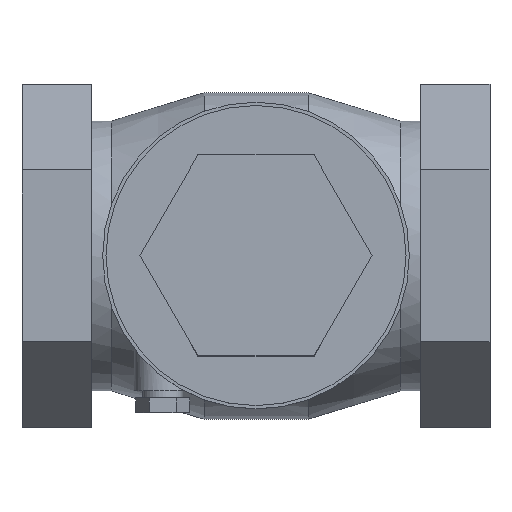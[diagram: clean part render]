
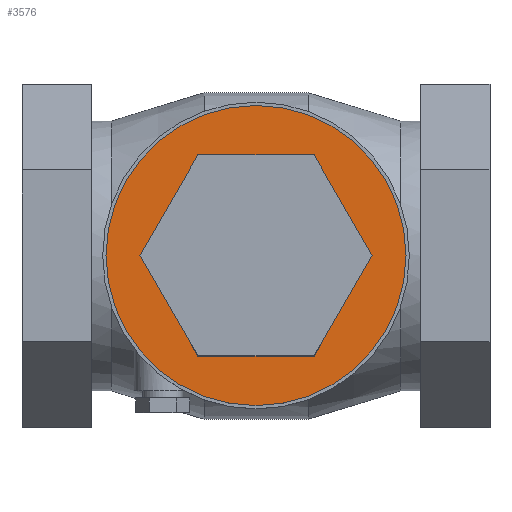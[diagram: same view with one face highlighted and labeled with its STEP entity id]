
A CAD part, top view. The second image highlights one B-rep face of the part: STEP entity #3576.
In plain terms, the highlighted planar face has unit normal (0, 0, 1).
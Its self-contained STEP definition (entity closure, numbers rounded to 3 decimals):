
#3507 = CYLINDRICAL_SURFACE('',#3508,1.125);
#3508 = AXIS2_PLACEMENT_3D('',#3509,#3510,#3511);
#3509 = CARTESIAN_POINT('',(1.755,0.,1.915));
#3510 = DIRECTION('',(0.,0.,1.));
#3511 = DIRECTION('',(1.,0.,-0.));
#3522 = EDGE_CURVE('',#3523,#3523,#3525,.T.);
#3523 = VERTEX_POINT('',#3524);
#3524 = CARTESIAN_POINT('',(2.88,0.,2.025));
#3525 = SURFACE_CURVE('',#3526,(#3531,#3538),.PCURVE_S1.);
#3526 = CIRCLE('',#3527,1.125);
#3527 = AXIS2_PLACEMENT_3D('',#3528,#3529,#3530);
#3528 = CARTESIAN_POINT('',(1.755,0.,2.025));
#3529 = DIRECTION('',(0.,0.,-1.));
#3530 = DIRECTION('',(1.,0.,0.));
#3531 = PCURVE('',#3507,#3532);
#3532 = DEFINITIONAL_REPRESENTATION('',(#3533),#3537);
#3533 = LINE('',#3534,#3535);
#3534 = CARTESIAN_POINT('',(6.283,0.11));
#3535 = VECTOR('',#3536,1.);
#3536 = DIRECTION('',(-1.,0.));
#3537 = ( GEOMETRIC_REPRESENTATION_CONTEXT(2) 
PARAMETRIC_REPRESENTATION_CONTEXT() REPRESENTATION_CONTEXT('2D SPACE',''
  ) );
#3538 = PCURVE('',#3539,#3544);
#3539 = PLANE('',#3540);
#3540 = AXIS2_PLACEMENT_3D('',#3541,#3542,#3543);
#3541 = CARTESIAN_POINT('',(1.755,0.,2.025));
#3542 = DIRECTION('',(0.,0.,1.));
#3543 = DIRECTION('',(1.,0.,-0.));
#3544 = DEFINITIONAL_REPRESENTATION('',(#3545),#3553);
#3545 = ( BOUNDED_CURVE() B_SPLINE_CURVE(2,(#3546,#3547,#3548,#3549,
#3550,#3551,#3552),.UNSPECIFIED.,.T.,.F.) B_SPLINE_CURVE_WITH_KNOTS((1,2
    ,2,2,2,1),(-2.094,0.,2.094,4.189,
6.283,8.378),.UNSPECIFIED.) CURVE() 
GEOMETRIC_REPRESENTATION_ITEM() RATIONAL_B_SPLINE_CURVE((1.,0.5,1.,0.5,
1.,0.5,1.)) REPRESENTATION_ITEM('') );
#3546 = CARTESIAN_POINT('',(1.125,0.));
#3547 = CARTESIAN_POINT('',(1.125,-1.949));
#3548 = CARTESIAN_POINT('',(-0.563,-0.974));
#3549 = CARTESIAN_POINT('',(-2.25,0.));
#3550 = CARTESIAN_POINT('',(-0.563,0.974));
#3551 = CARTESIAN_POINT('',(1.125,1.949));
#3552 = CARTESIAN_POINT('',(1.125,0.));
#3553 = ( GEOMETRIC_REPRESENTATION_CONTEXT(2) 
PARAMETRIC_REPRESENTATION_CONTEXT() REPRESENTATION_CONTEXT('2D SPACE',''
  ) );
#3576 = ADVANCED_FACE('',(#3577,#3580),#3539,.T.);
#3577 = FACE_BOUND('',#3578,.T.);
#3578 = EDGE_LOOP('',(#3579));
#3579 = ORIENTED_EDGE('',*,*,#3522,.F.);
#3580 = FACE_BOUND('',#3581,.T.);
#3581 = EDGE_LOOP('',(#3582,#3612,#3640,#3668,#3696,#3724));
#3582 = ORIENTED_EDGE('',*,*,#3583,.F.);
#3583 = EDGE_CURVE('',#3584,#3586,#3588,.T.);
#3584 = VERTEX_POINT('',#3585);
#3585 = CARTESIAN_POINT('',(1.32,-0.754,2.025));
#3586 = VERTEX_POINT('',#3587);
#3587 = CARTESIAN_POINT('',(2.19,-0.754,2.025));
#3588 = SURFACE_CURVE('',#3589,(#3593,#3600),.PCURVE_S1.);
#3589 = LINE('',#3590,#3591);
#3590 = CARTESIAN_POINT('',(1.32,-0.754,2.025));
#3591 = VECTOR('',#3592,1.);
#3592 = DIRECTION('',(1.,0.,0.));
#3593 = PCURVE('',#3539,#3594);
#3594 = DEFINITIONAL_REPRESENTATION('',(#3595),#3599);
#3595 = LINE('',#3596,#3597);
#3596 = CARTESIAN_POINT('',(-0.435,-0.754));
#3597 = VECTOR('',#3598,1.);
#3598 = DIRECTION('',(1.,0.));
#3599 = ( GEOMETRIC_REPRESENTATION_CONTEXT(2) 
PARAMETRIC_REPRESENTATION_CONTEXT() REPRESENTATION_CONTEXT('2D SPACE',''
  ) );
#3600 = PCURVE('',#3601,#3606);
#3601 = PLANE('',#3602);
#3602 = AXIS2_PLACEMENT_3D('',#3603,#3604,#3605);
#3603 = CARTESIAN_POINT('',(1.755,-0.754,2.025));
#3604 = DIRECTION('',(0.,-1.,0.));
#3605 = DIRECTION('',(1.,0.,0.));
#3606 = DEFINITIONAL_REPRESENTATION('',(#3607),#3611);
#3607 = LINE('',#3608,#3609);
#3608 = CARTESIAN_POINT('',(-0.435,0.));
#3609 = VECTOR('',#3610,1.);
#3610 = DIRECTION('',(1.,0.));
#3611 = ( GEOMETRIC_REPRESENTATION_CONTEXT(2) 
PARAMETRIC_REPRESENTATION_CONTEXT() REPRESENTATION_CONTEXT('2D SPACE',''
  ) );
#3612 = ORIENTED_EDGE('',*,*,#3613,.F.);
#3613 = EDGE_CURVE('',#3614,#3584,#3616,.T.);
#3614 = VERTEX_POINT('',#3615);
#3615 = CARTESIAN_POINT('',(0.884,0.,2.025));
#3616 = SURFACE_CURVE('',#3617,(#3621,#3628),.PCURVE_S1.);
#3617 = LINE('',#3618,#3619);
#3618 = CARTESIAN_POINT('',(0.884,0.,2.025));
#3619 = VECTOR('',#3620,1.);
#3620 = DIRECTION('',(0.5,-0.866,0.));
#3621 = PCURVE('',#3539,#3622);
#3622 = DEFINITIONAL_REPRESENTATION('',(#3623),#3627);
#3623 = LINE('',#3624,#3625);
#3624 = CARTESIAN_POINT('',(-0.871,0.));
#3625 = VECTOR('',#3626,1.);
#3626 = DIRECTION('',(0.5,-0.866));
#3627 = ( GEOMETRIC_REPRESENTATION_CONTEXT(2) 
PARAMETRIC_REPRESENTATION_CONTEXT() REPRESENTATION_CONTEXT('2D SPACE',''
  ) );
#3628 = PCURVE('',#3629,#3634);
#3629 = PLANE('',#3630);
#3630 = AXIS2_PLACEMENT_3D('',#3631,#3632,#3633);
#3631 = CARTESIAN_POINT('',(1.102,-0.377,2.025));
#3632 = DIRECTION('',(-0.866,-0.5,0.));
#3633 = DIRECTION('',(0.5,-0.866,0.));
#3634 = DEFINITIONAL_REPRESENTATION('',(#3635),#3639);
#3635 = LINE('',#3636,#3637);
#3636 = CARTESIAN_POINT('',(-0.435,0.));
#3637 = VECTOR('',#3638,1.);
#3638 = DIRECTION('',(1.,0.));
#3639 = ( GEOMETRIC_REPRESENTATION_CONTEXT(2) 
PARAMETRIC_REPRESENTATION_CONTEXT() REPRESENTATION_CONTEXT('2D SPACE',''
  ) );
#3640 = ORIENTED_EDGE('',*,*,#3641,.F.);
#3641 = EDGE_CURVE('',#3642,#3614,#3644,.T.);
#3642 = VERTEX_POINT('',#3643);
#3643 = CARTESIAN_POINT('',(1.32,0.754,2.025));
#3644 = SURFACE_CURVE('',#3645,(#3649,#3656),.PCURVE_S1.);
#3645 = LINE('',#3646,#3647);
#3646 = CARTESIAN_POINT('',(1.32,0.754,2.025));
#3647 = VECTOR('',#3648,1.);
#3648 = DIRECTION('',(-0.5,-0.866,0.));
#3649 = PCURVE('',#3539,#3650);
#3650 = DEFINITIONAL_REPRESENTATION('',(#3651),#3655);
#3651 = LINE('',#3652,#3653);
#3652 = CARTESIAN_POINT('',(-0.435,0.754));
#3653 = VECTOR('',#3654,1.);
#3654 = DIRECTION('',(-0.5,-0.866));
#3655 = ( GEOMETRIC_REPRESENTATION_CONTEXT(2) 
PARAMETRIC_REPRESENTATION_CONTEXT() REPRESENTATION_CONTEXT('2D SPACE',''
  ) );
#3656 = PCURVE('',#3657,#3662);
#3657 = PLANE('',#3658);
#3658 = AXIS2_PLACEMENT_3D('',#3659,#3660,#3661);
#3659 = CARTESIAN_POINT('',(1.102,0.377,2.025));
#3660 = DIRECTION('',(-0.866,0.5,0.));
#3661 = DIRECTION('',(-0.5,-0.866,0.));
#3662 = DEFINITIONAL_REPRESENTATION('',(#3663),#3667);
#3663 = LINE('',#3664,#3665);
#3664 = CARTESIAN_POINT('',(-0.435,0.));
#3665 = VECTOR('',#3666,1.);
#3666 = DIRECTION('',(1.,0.));
#3667 = ( GEOMETRIC_REPRESENTATION_CONTEXT(2) 
PARAMETRIC_REPRESENTATION_CONTEXT() REPRESENTATION_CONTEXT('2D SPACE',''
  ) );
#3668 = ORIENTED_EDGE('',*,*,#3669,.F.);
#3669 = EDGE_CURVE('',#3670,#3642,#3672,.T.);
#3670 = VERTEX_POINT('',#3671);
#3671 = CARTESIAN_POINT('',(2.19,0.754,2.025));
#3672 = SURFACE_CURVE('',#3673,(#3677,#3684),.PCURVE_S1.);
#3673 = LINE('',#3674,#3675);
#3674 = CARTESIAN_POINT('',(2.19,0.754,2.025));
#3675 = VECTOR('',#3676,1.);
#3676 = DIRECTION('',(-1.,0.,0.));
#3677 = PCURVE('',#3539,#3678);
#3678 = DEFINITIONAL_REPRESENTATION('',(#3679),#3683);
#3679 = LINE('',#3680,#3681);
#3680 = CARTESIAN_POINT('',(0.435,0.754));
#3681 = VECTOR('',#3682,1.);
#3682 = DIRECTION('',(-1.,0.));
#3683 = ( GEOMETRIC_REPRESENTATION_CONTEXT(2) 
PARAMETRIC_REPRESENTATION_CONTEXT() REPRESENTATION_CONTEXT('2D SPACE',''
  ) );
#3684 = PCURVE('',#3685,#3690);
#3685 = PLANE('',#3686);
#3686 = AXIS2_PLACEMENT_3D('',#3687,#3688,#3689);
#3687 = CARTESIAN_POINT('',(1.755,0.754,2.025));
#3688 = DIRECTION('',(0.,1.,0.));
#3689 = DIRECTION('',(-1.,0.,0.));
#3690 = DEFINITIONAL_REPRESENTATION('',(#3691),#3695);
#3691 = LINE('',#3692,#3693);
#3692 = CARTESIAN_POINT('',(-0.435,0.));
#3693 = VECTOR('',#3694,1.);
#3694 = DIRECTION('',(1.,0.));
#3695 = ( GEOMETRIC_REPRESENTATION_CONTEXT(2) 
PARAMETRIC_REPRESENTATION_CONTEXT() REPRESENTATION_CONTEXT('2D SPACE',''
  ) );
#3696 = ORIENTED_EDGE('',*,*,#3697,.F.);
#3697 = EDGE_CURVE('',#3698,#3670,#3700,.T.);
#3698 = VERTEX_POINT('',#3699);
#3699 = CARTESIAN_POINT('',(2.626,0.,2.025));
#3700 = SURFACE_CURVE('',#3701,(#3705,#3712),.PCURVE_S1.);
#3701 = LINE('',#3702,#3703);
#3702 = CARTESIAN_POINT('',(2.626,0.,2.025));
#3703 = VECTOR('',#3704,1.);
#3704 = DIRECTION('',(-0.5,0.866,0.));
#3705 = PCURVE('',#3539,#3706);
#3706 = DEFINITIONAL_REPRESENTATION('',(#3707),#3711);
#3707 = LINE('',#3708,#3709);
#3708 = CARTESIAN_POINT('',(0.871,0.));
#3709 = VECTOR('',#3710,1.);
#3710 = DIRECTION('',(-0.5,0.866));
#3711 = ( GEOMETRIC_REPRESENTATION_CONTEXT(2) 
PARAMETRIC_REPRESENTATION_CONTEXT() REPRESENTATION_CONTEXT('2D SPACE',''
  ) );
#3712 = PCURVE('',#3713,#3718);
#3713 = PLANE('',#3714);
#3714 = AXIS2_PLACEMENT_3D('',#3715,#3716,#3717);
#3715 = CARTESIAN_POINT('',(2.408,0.377,2.025));
#3716 = DIRECTION('',(0.866,0.5,0.));
#3717 = DIRECTION('',(-0.5,0.866,0.));
#3718 = DEFINITIONAL_REPRESENTATION('',(#3719),#3723);
#3719 = LINE('',#3720,#3721);
#3720 = CARTESIAN_POINT('',(-0.435,0.));
#3721 = VECTOR('',#3722,1.);
#3722 = DIRECTION('',(1.,0.));
#3723 = ( GEOMETRIC_REPRESENTATION_CONTEXT(2) 
PARAMETRIC_REPRESENTATION_CONTEXT() REPRESENTATION_CONTEXT('2D SPACE',''
  ) );
#3724 = ORIENTED_EDGE('',*,*,#3725,.F.);
#3725 = EDGE_CURVE('',#3586,#3698,#3726,.T.);
#3726 = SURFACE_CURVE('',#3727,(#3731,#3738),.PCURVE_S1.);
#3727 = LINE('',#3728,#3729);
#3728 = CARTESIAN_POINT('',(2.19,-0.754,2.025));
#3729 = VECTOR('',#3730,1.);
#3730 = DIRECTION('',(0.5,0.866,0.));
#3731 = PCURVE('',#3539,#3732);
#3732 = DEFINITIONAL_REPRESENTATION('',(#3733),#3737);
#3733 = LINE('',#3734,#3735);
#3734 = CARTESIAN_POINT('',(0.435,-0.754));
#3735 = VECTOR('',#3736,1.);
#3736 = DIRECTION('',(0.5,0.866));
#3737 = ( GEOMETRIC_REPRESENTATION_CONTEXT(2) 
PARAMETRIC_REPRESENTATION_CONTEXT() REPRESENTATION_CONTEXT('2D SPACE',''
  ) );
#3738 = PCURVE('',#3739,#3744);
#3739 = PLANE('',#3740);
#3740 = AXIS2_PLACEMENT_3D('',#3741,#3742,#3743);
#3741 = CARTESIAN_POINT('',(2.408,-0.377,2.025));
#3742 = DIRECTION('',(0.866,-0.5,0.));
#3743 = DIRECTION('',(0.5,0.866,0.));
#3744 = DEFINITIONAL_REPRESENTATION('',(#3745),#3749);
#3745 = LINE('',#3746,#3747);
#3746 = CARTESIAN_POINT('',(-0.435,0.));
#3747 = VECTOR('',#3748,1.);
#3748 = DIRECTION('',(1.,0.));
#3749 = ( GEOMETRIC_REPRESENTATION_CONTEXT(2) 
PARAMETRIC_REPRESENTATION_CONTEXT() REPRESENTATION_CONTEXT('2D SPACE',''
  ) );
